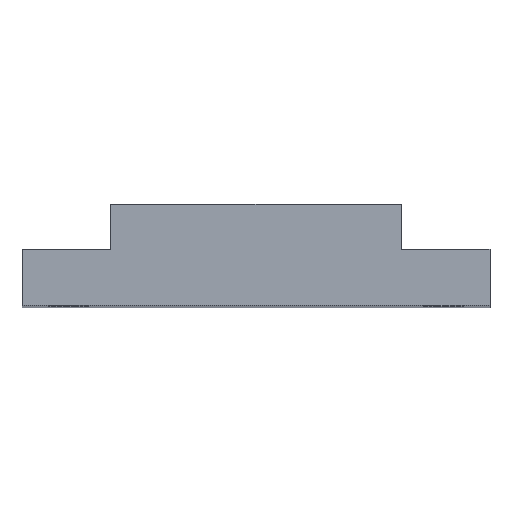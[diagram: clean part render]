
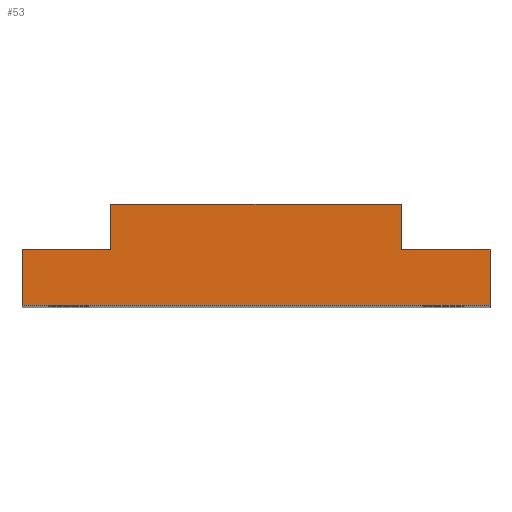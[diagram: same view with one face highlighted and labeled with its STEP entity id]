
A CAD part, top view. The second image highlights one B-rep face of the part: STEP entity #53.
In plain terms, the highlighted planar face has unit normal (0, 0, 1).
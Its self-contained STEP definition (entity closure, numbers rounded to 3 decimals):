
#11 = ORIENTED_EDGE ( 'NONE', *, *, #391, .T. ) ;
#17 = CARTESIAN_POINT ( 'NONE',  ( -25., 3., 168. ) ) ;
#25 = EDGE_CURVE ( 'NONE', #1538, #62, #1367, .T. ) ;
#51 = PLANE ( 'NONE',  #1177 ) ;
#53 = ADVANCED_FACE ( 'NONE', ( #1178 ), #51, .T. ) ;
#62 = VERTEX_POINT ( 'NONE', #749 ) ;
#88 = CARTESIAN_POINT ( 'NONE',  ( -25., 3., 168. ) ) ;
#106 = EDGE_CURVE ( 'NONE', #1121, #909, #633, .T. ) ;
#134 = DIRECTION ( 'NONE',  ( 0., 0., 1. ) ) ;
#153 = CARTESIAN_POINT ( 'NONE',  ( 0., 0., 168. ) ) ;
#157 = CARTESIAN_POINT ( 'NONE',  ( -25., -3., 168. ) ) ;
#212 = VECTOR ( 'NONE', #474, 1000. ) ;
#221 = DIRECTION ( 'NONE',  ( -1., 0., 0. ) ) ;
#229 = LINE ( 'NONE', #311, #672 ) ;
#261 = DIRECTION ( 'NONE',  ( -1., 0., 0. ) ) ;
#270 = DIRECTION ( 'NONE',  ( 1., 0., 0. ) ) ;
#271 = EDGE_CURVE ( 'NONE', #1142, #1558, #229, .T. ) ;
#303 = CARTESIAN_POINT ( 'NONE',  ( 15.5, 3., 168. ) ) ;
#311 = CARTESIAN_POINT ( 'NONE',  ( -25., 3., 168. ) ) ;
#335 = ORIENTED_EDGE ( 'NONE', *, *, #106, .T. ) ;
#343 = ORIENTED_EDGE ( 'NONE', *, *, #1403, .F. ) ;
#350 = CARTESIAN_POINT ( 'NONE',  ( 25., -3., 168. ) ) ;
#391 = EDGE_CURVE ( 'NONE', #1538, #1142, #934, .T. ) ;
#415 = VECTOR ( 'NONE', #261, 1000. ) ;
#474 = DIRECTION ( 'NONE',  ( 1., 0., 0. ) ) ;
#485 = VECTOR ( 'NONE', #221, 1000. ) ;
#493 = VECTOR ( 'NONE', #660, 1000. ) ;
#497 = VERTEX_POINT ( 'NONE', #575 ) ;
#542 = VECTOR ( 'NONE', #1484, 1000. ) ;
#549 = DIRECTION ( 'NONE',  ( 0., 1., 0. ) ) ;
#556 = DIRECTION ( 'NONE',  ( 0., -1., 0. ) ) ;
#559 = LINE ( 'NONE', #1042, #1252 ) ;
#561 = EDGE_CURVE ( 'NONE', #62, #497, #900, .T. ) ;
#572 = VECTOR ( 'NONE', #738, 1000. ) ;
#575 = CARTESIAN_POINT ( 'NONE',  ( 15.5, 7.8, 168. ) ) ;
#602 = ORIENTED_EDGE ( 'NONE', *, *, #1389, .T. ) ;
#633 = LINE ( 'NONE', #17, #415 ) ;
#660 = DIRECTION ( 'NONE',  ( 0., -1., 0. ) ) ;
#672 = VECTOR ( 'NONE', #556, 1000. ) ;
#738 = DIRECTION ( 'NONE',  ( 1., 0., 0. ) ) ;
#749 = CARTESIAN_POINT ( 'NONE',  ( -15.5, 7.8, 168. ) ) ;
#773 = ORIENTED_EDGE ( 'NONE', *, *, #561, .F. ) ;
#793 = EDGE_CURVE ( 'NONE', #923, #1121, #559, .T. ) ;
#806 = LINE ( 'NONE', #303, #493 ) ;
#831 = CARTESIAN_POINT ( 'NONE',  ( -25., 3., 168. ) ) ;
#876 = ORIENTED_EDGE ( 'NONE', *, *, #25, .F. ) ;
#900 = LINE ( 'NONE', #1551, #212 ) ;
#904 = CARTESIAN_POINT ( 'NONE',  ( -15.5, 3., 168. ) ) ;
#909 = VERTEX_POINT ( 'NONE', #1398 ) ;
#923 = VERTEX_POINT ( 'NONE', #350 ) ;
#934 = LINE ( 'NONE', #88, #485 ) ;
#1042 = CARTESIAN_POINT ( 'NONE',  ( 25., 3., 168. ) ) ;
#1067 = CARTESIAN_POINT ( 'NONE',  ( 25., 3., 168. ) ) ;
#1121 = VERTEX_POINT ( 'NONE', #1067 ) ;
#1142 = VERTEX_POINT ( 'NONE', #831 ) ;
#1147 = ORIENTED_EDGE ( 'NONE', *, *, #271, .T. ) ;
#1177 = AXIS2_PLACEMENT_3D ( 'NONE', #153, #134, #270 ) ;
#1178 = FACE_OUTER_BOUND ( 'NONE', #1562, .T. ) ;
#1205 = CARTESIAN_POINT ( 'NONE',  ( -25., -3., 168. ) ) ;
#1252 = VECTOR ( 'NONE', #549, 1000. ) ;
#1359 = CARTESIAN_POINT ( 'NONE',  ( -15.5, 3., 168. ) ) ;
#1367 = LINE ( 'NONE', #1359, #542 ) ;
#1389 = EDGE_CURVE ( 'NONE', #1558, #923, #1540, .T. ) ;
#1398 = CARTESIAN_POINT ( 'NONE',  ( 15.5, 3., 168. ) ) ;
#1403 = EDGE_CURVE ( 'NONE', #497, #909, #806, .T. ) ;
#1484 = DIRECTION ( 'NONE',  ( 0., 1., 0. ) ) ;
#1499 = ORIENTED_EDGE ( 'NONE', *, *, #793, .T. ) ;
#1538 = VERTEX_POINT ( 'NONE', #904 ) ;
#1540 = LINE ( 'NONE', #157, #572 ) ;
#1551 = CARTESIAN_POINT ( 'NONE',  ( 15.5, 7.8, 168. ) ) ;
#1558 = VERTEX_POINT ( 'NONE', #1205 ) ;
#1562 = EDGE_LOOP ( 'NONE', ( #1499, #335, #343, #773, #876, #11, #1147, #602 ) ) ;
